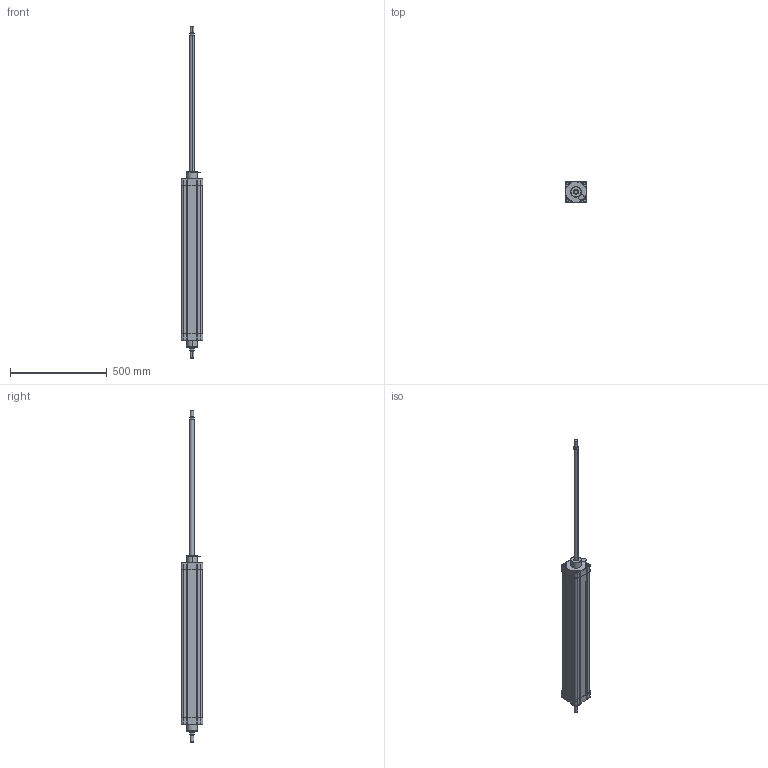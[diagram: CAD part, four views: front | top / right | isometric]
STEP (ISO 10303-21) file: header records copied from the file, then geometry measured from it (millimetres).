
FILE_DESCRIPTION((''),'2;1');
FILE_NAME('N11M41000700.stp','2010-01-06T23:13:42',('B. Petkovic 2010'),('AZ PNEUMATICA S.r.l.'),'Mechanical Desktop 2006','Mechanical Desktop 2006','Via Marco Biagi 6, I-20020 Misinto(MI) Italy, azpneu@tin.it');
FILE_SCHEMA(('CONFIG_CONTROL_DESIGN'));
Length unit declared in the file: millimetre
Products named in the file (2): N11M40800700; CILINDAR
Assembly tree (1 placements, depth 2):
  N11M40800700
    CILINDAR
Bounding box: 112 x 112 x 1720 mm (x, y, z)
Volume: 9748508.5 mm3; surface area: 557800.3 mm2
Topology: 1 solids, 1 shells, 719 faces, 1847 edges, 1176 vertices
Faces by surface type: cylinder 328, plane 299, torus 44, bspline 40, cone 8
Entity records: 23878 total; most frequent: CARTESIAN_POINT 5731, DIRECTION 4027, ORIENTED_EDGE 3694, EDGE_CURVE 1847, AXIS2_PLACEMENT_3D 1508, VERTEX_POINT 1176, VECTOR 1011, LINE 1011
